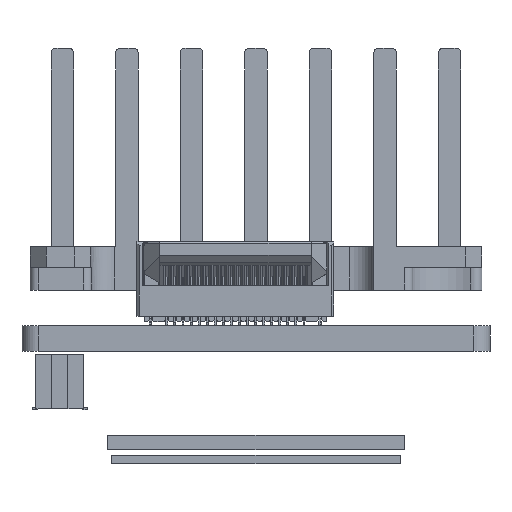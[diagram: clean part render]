
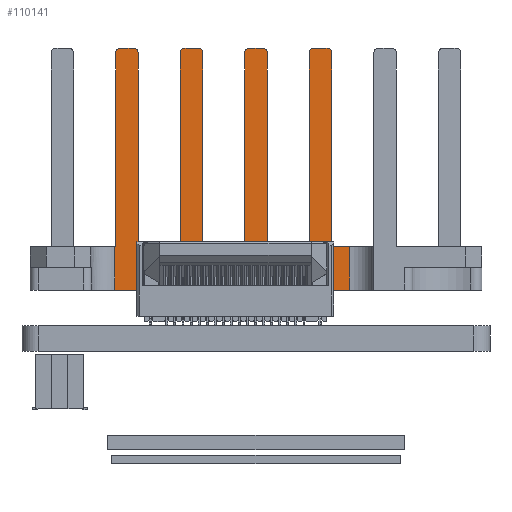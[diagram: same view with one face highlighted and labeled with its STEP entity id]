
A CAD part, front view. The second image highlights one B-rep face of the part: STEP entity #110141.
In plain terms, the highlighted planar face has unit normal (0, -1, 0).
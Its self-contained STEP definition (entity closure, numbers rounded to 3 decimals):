
#106384=DIRECTION('',(1.,0.,0.));
#106385=VECTOR('',#106384,1.1);
#106386=CARTESIAN_POINT('',(4.7,-8.05,18.7));
#106387=LINE('',#106386,#106385);
#106388=DIRECTION('',(1.,0.,0.));
#106389=VECTOR('',#106388,2.6);
#106390=CARTESIAN_POINT('',(0.7,-8.05,18.7));
#106391=LINE('',#106390,#106389);
#106392=DIRECTION('',(1.,0.,0.));
#106393=VECTOR('',#106392,2.6);
#106394=CARTESIAN_POINT('',(-3.3,-8.05,18.7));
#106395=LINE('',#106394,#106393);
#106396=DIRECTION('',(1.,0.,0.));
#106397=VECTOR('',#106396,2.6);
#106398=CARTESIAN_POINT('',(-7.3,-8.05,18.7));
#106399=LINE('',#106398,#106397);
#106400=DIRECTION('',(1.,0.,0.));
#106401=VECTOR('',#106400,0.05);
#106402=CARTESIAN_POINT('',(-8.75,-8.05,18.7));
#106403=LINE('',#106402,#106401);
#106623=DIRECTION('',(0.,0.,-1.));
#106624=VECTOR('',#106623,2.7);
#106625=CARTESIAN_POINT('',(5.8,-8.05,18.7));
#106626=LINE('',#106625,#106624);
#106631=DIRECTION('',(-1.,0.,0.));
#106632=VECTOR('',#106631,14.55);
#106633=CARTESIAN_POINT('',(5.8,-8.05,16.));
#106634=LINE('',#106633,#106632);
#106635=CARTESIAN_POINT('',(-8.4,-8.05,30.7));
#106636=DIRECTION('',(0.,1.,0.));
#106637=DIRECTION('',(-1.,0.,0.));
#106638=AXIS2_PLACEMENT_3D('',#106635,#106636,#106637);
#106640=CARTESIAN_POINT('',(-7.6,-8.05,30.7));
#106641=DIRECTION('',(0.,1.,0.));
#106642=DIRECTION('',(0.,0.,1.));
#106643=AXIS2_PLACEMENT_3D('',#106640,#106641,#106642);
#106645=CARTESIAN_POINT('',(-4.4,-8.05,30.7));
#106646=DIRECTION('',(0.,1.,0.));
#106647=DIRECTION('',(-1.,0.,0.));
#106648=AXIS2_PLACEMENT_3D('',#106645,#106646,#106647);
#106650=CARTESIAN_POINT('',(-3.6,-8.05,30.7));
#106651=DIRECTION('',(0.,1.,0.));
#106652=DIRECTION('',(0.,0.,1.));
#106653=AXIS2_PLACEMENT_3D('',#106650,#106651,#106652);
#106655=CARTESIAN_POINT('',(-0.4,-8.05,30.7));
#106656=DIRECTION('',(0.,1.,0.));
#106657=DIRECTION('',(-1.,0.,0.));
#106658=AXIS2_PLACEMENT_3D('',#106655,#106656,#106657);
#106660=CARTESIAN_POINT('',(0.4,-8.05,30.7));
#106661=DIRECTION('',(0.,1.,0.));
#106662=DIRECTION('',(0.,0.,1.));
#106663=AXIS2_PLACEMENT_3D('',#106660,#106661,#106662);
#106665=CARTESIAN_POINT('',(3.6,-8.05,30.7));
#106666=DIRECTION('',(0.,1.,0.));
#106667=DIRECTION('',(-1.,0.,0.));
#106668=AXIS2_PLACEMENT_3D('',#106665,#106666,#106667);
#106670=CARTESIAN_POINT('',(4.4,-8.05,30.7));
#106671=DIRECTION('',(0.,1.,0.));
#106672=DIRECTION('',(0.,0.,1.));
#106673=AXIS2_PLACEMENT_3D('',#106670,#106671,#106672);
#106679=DIRECTION('',(0.,0.,1.));
#106680=VECTOR('',#106679,2.7);
#106681=CARTESIAN_POINT('',(-8.75,-8.05,16.));
#106682=LINE('',#106681,#106680);
#107037=DIRECTION('',(0.,0.,1.));
#107038=VECTOR('',#107037,12.);
#107039=CARTESIAN_POINT('',(-8.7,-8.05,18.7));
#107040=LINE('',#107039,#107038);
#107063=DIRECTION('',(0.,0.,-1.));
#107064=VECTOR('',#107063,12.);
#107065=CARTESIAN_POINT('',(-7.3,-8.05,30.7));
#107066=LINE('',#107065,#107064);
#107079=DIRECTION('',(1.,0.,0.));
#107080=VECTOR('',#107079,0.8);
#107081=CARTESIAN_POINT('',(-8.4,-8.05,31.));
#107082=LINE('',#107081,#107080);
#107099=DIRECTION('',(0.,0.,1.));
#107100=VECTOR('',#107099,12.);
#107101=CARTESIAN_POINT('',(-4.7,-8.05,18.7));
#107102=LINE('',#107101,#107100);
#107125=DIRECTION('',(0.,0.,-1.));
#107126=VECTOR('',#107125,12.);
#107127=CARTESIAN_POINT('',(-3.3,-8.05,30.7));
#107128=LINE('',#107127,#107126);
#107141=DIRECTION('',(1.,0.,0.));
#107142=VECTOR('',#107141,0.8);
#107143=CARTESIAN_POINT('',(-4.4,-8.05,31.));
#107144=LINE('',#107143,#107142);
#107161=DIRECTION('',(0.,0.,1.));
#107162=VECTOR('',#107161,12.);
#107163=CARTESIAN_POINT('',(-0.7,-8.05,18.7));
#107164=LINE('',#107163,#107162);
#107187=DIRECTION('',(0.,0.,-1.));
#107188=VECTOR('',#107187,12.);
#107189=CARTESIAN_POINT('',(0.7,-8.05,30.7));
#107190=LINE('',#107189,#107188);
#107203=DIRECTION('',(1.,0.,0.));
#107204=VECTOR('',#107203,0.8);
#107205=CARTESIAN_POINT('',(-0.4,-8.05,31.));
#107206=LINE('',#107205,#107204);
#107223=DIRECTION('',(0.,0.,1.));
#107224=VECTOR('',#107223,12.);
#107225=CARTESIAN_POINT('',(3.3,-8.05,18.7));
#107226=LINE('',#107225,#107224);
#107249=DIRECTION('',(0.,0.,-1.));
#107250=VECTOR('',#107249,12.);
#107251=CARTESIAN_POINT('',(4.7,-8.05,30.7));
#107252=LINE('',#107251,#107250);
#107265=DIRECTION('',(1.,0.,0.));
#107266=VECTOR('',#107265,0.8);
#107267=CARTESIAN_POINT('',(3.6,-8.05,31.));
#107268=LINE('',#107267,#107266);
#108784=CARTESIAN_POINT('',(5.8,-8.05,16.));
#108785=VERTEX_POINT('',#108784);
#108786=CARTESIAN_POINT('',(-8.75,-8.05,16.));
#108787=VERTEX_POINT('',#108786);
#108864=CARTESIAN_POINT('',(5.8,-8.05,18.7));
#108865=VERTEX_POINT('',#108864);
#108866=CARTESIAN_POINT('',(4.7,-8.05,18.7));
#108867=VERTEX_POINT('',#108866);
#108868=CARTESIAN_POINT('',(4.7,-8.05,30.7));
#108869=VERTEX_POINT('',#108868);
#108870=CARTESIAN_POINT('',(4.4,-8.05,31.));
#108871=VERTEX_POINT('',#108870);
#108872=CARTESIAN_POINT('',(3.6,-8.05,31.));
#108873=VERTEX_POINT('',#108872);
#108874=CARTESIAN_POINT('',(3.3,-8.05,30.7));
#108875=VERTEX_POINT('',#108874);
#108876=CARTESIAN_POINT('',(3.3,-8.05,18.7));
#108877=VERTEX_POINT('',#108876);
#108878=CARTESIAN_POINT('',(0.7,-8.05,18.7));
#108879=VERTEX_POINT('',#108878);
#108880=CARTESIAN_POINT('',(0.7,-8.05,30.7));
#108881=VERTEX_POINT('',#108880);
#108882=CARTESIAN_POINT('',(0.4,-8.05,31.));
#108883=VERTEX_POINT('',#108882);
#108884=CARTESIAN_POINT('',(-0.4,-8.05,31.));
#108885=VERTEX_POINT('',#108884);
#108886=CARTESIAN_POINT('',(-0.7,-8.05,30.7));
#108887=VERTEX_POINT('',#108886);
#108888=CARTESIAN_POINT('',(-0.7,-8.05,18.7));
#108889=VERTEX_POINT('',#108888);
#108890=CARTESIAN_POINT('',(-3.3,-8.05,18.7));
#108891=VERTEX_POINT('',#108890);
#108892=CARTESIAN_POINT('',(-3.3,-8.05,30.7));
#108893=VERTEX_POINT('',#108892);
#108894=CARTESIAN_POINT('',(-3.6,-8.05,31.));
#108895=VERTEX_POINT('',#108894);
#108896=CARTESIAN_POINT('',(-4.4,-8.05,31.));
#108897=VERTEX_POINT('',#108896);
#108898=CARTESIAN_POINT('',(-4.7,-8.05,30.7));
#108899=VERTEX_POINT('',#108898);
#108900=CARTESIAN_POINT('',(-4.7,-8.05,18.7));
#108901=VERTEX_POINT('',#108900);
#108902=CARTESIAN_POINT('',(-7.3,-8.05,18.7));
#108903=VERTEX_POINT('',#108902);
#108904=CARTESIAN_POINT('',(-7.3,-8.05,30.7));
#108905=VERTEX_POINT('',#108904);
#108906=CARTESIAN_POINT('',(-7.6,-8.05,31.));
#108907=VERTEX_POINT('',#108906);
#108908=CARTESIAN_POINT('',(-8.4,-8.05,31.));
#108909=VERTEX_POINT('',#108908);
#108910=CARTESIAN_POINT('',(-8.7,-8.05,30.7));
#108911=VERTEX_POINT('',#108910);
#108912=CARTESIAN_POINT('',(-8.7,-8.05,18.7));
#108913=VERTEX_POINT('',#108912);
#108914=CARTESIAN_POINT('',(-8.75,-8.05,18.7));
#108915=VERTEX_POINT('',#108914);
#110085=CARTESIAN_POINT('',(-1.475,-8.05,23.5));
#110086=DIRECTION('',(0.,1.,0.));
#110087=DIRECTION('',(-1.,0.,0.));
#110088=AXIS2_PLACEMENT_3D('',#110085,#110086,#110087);
#110089=PLANE('',#110088);
#110090=ORIENTED_EDGE('',*,*,#110077,.T.);
#110091=ORIENTED_EDGE('',*,*,#109896,.T.);
#110093=ORIENTED_EDGE('',*,*,#110092,.T.);
#110094=ORIENTED_EDGE('',*,*,#109643,.T.);
#110096=ORIENTED_EDGE('',*,*,#110095,.T.);
#110098=ORIENTED_EDGE('',*,*,#110097,.T.);
#110100=ORIENTED_EDGE('',*,*,#110099,.T.);
#110102=ORIENTED_EDGE('',*,*,#110101,.T.);
#110104=ORIENTED_EDGE('',*,*,#110103,.T.);
#110105=ORIENTED_EDGE('',*,*,#109635,.T.);
#110107=ORIENTED_EDGE('',*,*,#110106,.T.);
#110109=ORIENTED_EDGE('',*,*,#110108,.T.);
#110111=ORIENTED_EDGE('',*,*,#110110,.T.);
#110113=ORIENTED_EDGE('',*,*,#110112,.T.);
#110115=ORIENTED_EDGE('',*,*,#110114,.T.);
#110116=ORIENTED_EDGE('',*,*,#109627,.T.);
#110118=ORIENTED_EDGE('',*,*,#110117,.T.);
#110120=ORIENTED_EDGE('',*,*,#110119,.T.);
#110122=ORIENTED_EDGE('',*,*,#110121,.T.);
#110124=ORIENTED_EDGE('',*,*,#110123,.T.);
#110126=ORIENTED_EDGE('',*,*,#110125,.T.);
#110127=ORIENTED_EDGE('',*,*,#109619,.T.);
#110129=ORIENTED_EDGE('',*,*,#110128,.T.);
#110131=ORIENTED_EDGE('',*,*,#110130,.T.);
#110133=ORIENTED_EDGE('',*,*,#110132,.T.);
#110135=ORIENTED_EDGE('',*,*,#110134,.T.);
#110137=ORIENTED_EDGE('',*,*,#110136,.T.);
#110138=ORIENTED_EDGE('',*,*,#109611,.T.);
#110139=EDGE_LOOP('',(#110090,#110091,#110093,#110094,#110096,#110098,#110100,
#110102,#110104,#110105,#110107,#110109,#110111,#110113,#110115,#110116,#110118,
#110120,#110122,#110124,#110126,#110127,#110129,#110131,#110133,#110135,#110137,
#110138));
#110140=FACE_OUTER_BOUND('',#110139,.F.);
#110141=ADVANCED_FACE('',(#110140),#110089,.F.);
#106639=CIRCLE('',#106638,0.3);
#106644=CIRCLE('',#106643,0.3);
#106649=CIRCLE('',#106648,0.3);
#106654=CIRCLE('',#106653,0.3);
#106659=CIRCLE('',#106658,0.3);
#106664=CIRCLE('',#106663,0.3);
#106669=CIRCLE('',#106668,0.3);
#106674=CIRCLE('',#106673,0.3);
#109611=EDGE_CURVE('',#108867,#108865,#106387,.T.);
#109619=EDGE_CURVE('',#108879,#108877,#106391,.T.);
#109627=EDGE_CURVE('',#108891,#108889,#106395,.T.);
#109635=EDGE_CURVE('',#108903,#108901,#106399,.T.);
#109643=EDGE_CURVE('',#108915,#108913,#106403,.T.);
#109896=EDGE_CURVE('',#108785,#108787,#106634,.T.);
#110077=EDGE_CURVE('',#108865,#108785,#106626,.T.);
#110092=EDGE_CURVE('',#108787,#108915,#106682,.T.);
#110095=EDGE_CURVE('',#108913,#108911,#107040,.T.);
#110097=EDGE_CURVE('',#108911,#108909,#106639,.T.);
#110099=EDGE_CURVE('',#108909,#108907,#107082,.T.);
#110101=EDGE_CURVE('',#108907,#108905,#106644,.T.);
#110103=EDGE_CURVE('',#108905,#108903,#107066,.T.);
#110106=EDGE_CURVE('',#108901,#108899,#107102,.T.);
#110108=EDGE_CURVE('',#108899,#108897,#106649,.T.);
#110110=EDGE_CURVE('',#108897,#108895,#107144,.T.);
#110112=EDGE_CURVE('',#108895,#108893,#106654,.T.);
#110114=EDGE_CURVE('',#108893,#108891,#107128,.T.);
#110117=EDGE_CURVE('',#108889,#108887,#107164,.T.);
#110119=EDGE_CURVE('',#108887,#108885,#106659,.T.);
#110121=EDGE_CURVE('',#108885,#108883,#107206,.T.);
#110123=EDGE_CURVE('',#108883,#108881,#106664,.T.);
#110125=EDGE_CURVE('',#108881,#108879,#107190,.T.);
#110128=EDGE_CURVE('',#108877,#108875,#107226,.T.);
#110130=EDGE_CURVE('',#108875,#108873,#106669,.T.);
#110132=EDGE_CURVE('',#108873,#108871,#107268,.T.);
#110134=EDGE_CURVE('',#108871,#108869,#106674,.T.);
#110136=EDGE_CURVE('',#108869,#108867,#107252,.T.);
